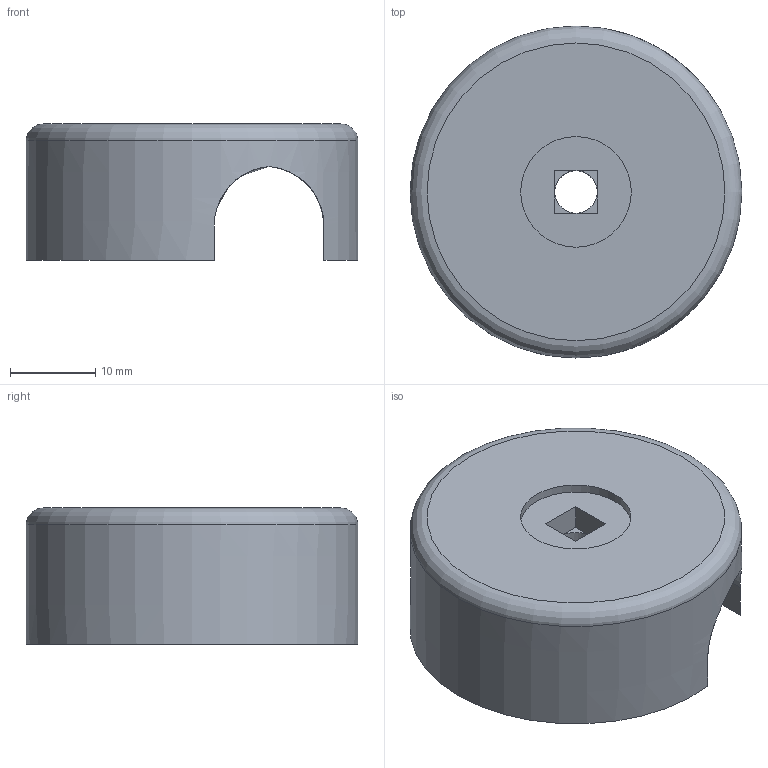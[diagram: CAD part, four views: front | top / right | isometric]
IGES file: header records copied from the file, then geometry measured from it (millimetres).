
Start section: Data from Parasolid IGES Translator 28.1.247, Copyright(c) 2006 Siemens PLM Software. All Rights Reserved.
Global section: file name: 6920920e921f59b3eca6906d.iges; native system: By Siemens PLM Incorporated; preprocessor: XPlus GENERIC/IGES 28.1.247; author: Noname; organization: Noname; date: 20251121.162342; units: metre
Bounding box: 39 x 39 x 16 mm (x, y, z)
Surface area: 4653.3 mm2 (no closed solid volume)
Topology: 0 solids, 0 shells, 26 faces, 126 edges, 123 vertices
Faces by surface type: extrusion 16, revolution 10
